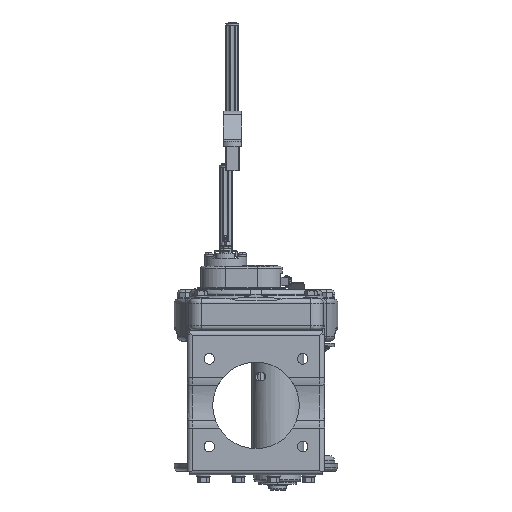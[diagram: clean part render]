
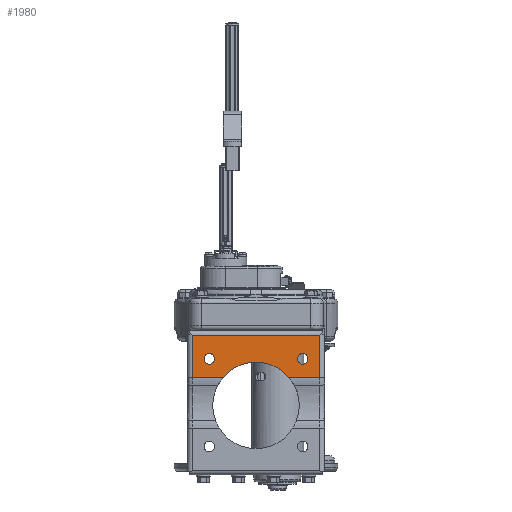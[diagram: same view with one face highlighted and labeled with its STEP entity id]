
A CAD part, front view. The second image highlights one B-rep face of the part: STEP entity #1980.
In plain terms, the highlighted planar face has unit normal (0, -1, 0).
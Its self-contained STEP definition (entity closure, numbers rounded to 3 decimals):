
#1980=ADVANCED_FACE('',(#21552,#21553,#21554),#21551,.F.);
#21551=PLANE('',#45044);
#21552=FACE_OUTER_BOUND('',#45045,.T.);
#21553=FACE_BOUND('',#45046,.T.);
#21554=FACE_BOUND('',#45047,.T.);
#45041=CARTESIAN_POINT('',(-127.722,-108.7,-182.168));
#45042=DIRECTION('',(0.,1.,0.));
#45043=DIRECTION('',(0.,0.,-1.));
#45044=AXIS2_PLACEMENT_3D('',#45041,#45042,#45043);
#45045=EDGE_LOOP('',(#65026,#65027,#65028,#65029,#65030,#65031,#65032));
#45046=EDGE_LOOP('',(#65033,#65034));
#45047=EDGE_LOOP('',(#65035,#65036));
#65026=ORIENTED_EDGE('',*,*,#76666,.T.);
#65027=ORIENTED_EDGE('',*,*,#76667,.T.);
#65028=ORIENTED_EDGE('',*,*,#76668,.T.);
#65029=ORIENTED_EDGE('',*,*,#76669,.T.);
#65030=ORIENTED_EDGE('',*,*,#76670,.T.);
#65031=ORIENTED_EDGE('',*,*,#76671,.F.);
#65032=ORIENTED_EDGE('',*,*,#76672,.F.);
#65033=ORIENTED_EDGE('',*,*,#76673,.T.);
#65034=ORIENTED_EDGE('',*,*,#76674,.T.);
#65035=ORIENTED_EDGE('',*,*,#76675,.T.);
#65036=ORIENTED_EDGE('',*,*,#76676,.T.);
#76666=EDGE_CURVE('',#114693,#114694,#114695,.T.);
#76667=EDGE_CURVE('',#114694,#114701,#114702,.T.);
#76668=EDGE_CURVE('',#114701,#114708,#114709,.T.);
#76669=EDGE_CURVE('',#114708,#114715,#114716,.T.);
#76670=EDGE_CURVE('',#114715,#114722,#114723,.T.);
#76671=EDGE_CURVE('',#114729,#114722,#114730,.T.);
#76672=EDGE_CURVE('',#114693,#114729,#114736,.T.);
#76673=EDGE_CURVE('',#114742,#114743,#114744,.T.);
#76674=EDGE_CURVE('',#114743,#114742,#114750,.T.);
#76675=EDGE_CURVE('',#114756,#114757,#114758,.T.);
#76676=EDGE_CURVE('',#114757,#114756,#114764,.T.);
#114693=VERTEX_POINT('',#153809);
#114694=VERTEX_POINT('',#153810);
#114695=LINE('',#153811,#153812);
#114701=VERTEX_POINT('',#153814);
#114702=CIRCLE('',#153818,74.);
#114708=VERTEX_POINT('',#153819);
#114709=CIRCLE('',#153823,74.);
#114715=VERTEX_POINT('',#153824);
#114716=LINE('',#153825,#153826);
#114722=VERTEX_POINT('',#153828);
#114723=LINE('',#153829,#153830);
#114729=VERTEX_POINT('',#153832);
#114730=LINE('',#153833,#153834);
#114736=LINE('',#153836,#153837);
#114742=VERTEX_POINT('',#153839);
#114743=VERTEX_POINT('',#153840);
#114744=CIRCLE('',#153844,9.);
#114750=CIRCLE('',#153848,9.);
#114756=VERTEX_POINT('',#153849);
#114757=VERTEX_POINT('',#153850);
#114758=CIRCLE('',#153854,9.);
#114764=CIRCLE('',#153858,9.);
#153809=CARTESIAN_POINT('',(-356.722,-108.7,-261.321));
#153810=CARTESIAN_POINT('',(-303.505,-108.7,-261.321));
#153811=CARTESIAN_POINT('',(-356.722,-108.7,-261.321));
#153812=VECTOR('',#153813,53.216);
#153813=DIRECTION('',(1.,0.,0.));
#153814=CARTESIAN_POINT('',(-247.222,-108.7,-235.364));
#153815=CARTESIAN_POINT('',(-247.222,-108.7,-309.364));
#153816=DIRECTION('',(0.,1.,0.));
#153817=DIRECTION('',(-0.761,0.,0.649));
#153818=AXIS2_PLACEMENT_3D('',#153815,#153816,#153817);
#153819=CARTESIAN_POINT('',(-190.938,-108.7,-261.321));
#153820=CARTESIAN_POINT('',(-247.222,-108.7,-309.364));
#153821=DIRECTION('',(0.,1.,0.));
#153822=DIRECTION('',(-0.761,0.,0.649));
#153823=AXIS2_PLACEMENT_3D('',#153820,#153821,#153822);
#153824=CARTESIAN_POINT('',(-137.722,-108.7,-261.321));
#153825=CARTESIAN_POINT('',(-190.938,-108.7,-261.321));
#153826=VECTOR('',#153827,53.216);
#153827=DIRECTION('',(1.,0.,0.));
#153828=CARTESIAN_POINT('',(-137.722,-108.7,-189.364));
#153829=CARTESIAN_POINT('',(-137.722,-108.7,-261.321));
#153830=VECTOR('',#153831,71.957);
#153831=DIRECTION('',(0.,0.,1.));
#153832=CARTESIAN_POINT('',(-356.722,-108.7,-189.364));
#153833=CARTESIAN_POINT('',(-356.722,-108.7,-189.364));
#153834=VECTOR('',#153835,219.);
#153835=DIRECTION('',(1.,0.,0.));
#153836=CARTESIAN_POINT('',(-356.722,-108.7,-261.321));
#153837=VECTOR('',#153838,71.957);
#153838=DIRECTION('',(0.,0.,1.));
#153839=CARTESIAN_POINT('',(-167.222,-108.7,-238.864));
#153840=CARTESIAN_POINT('',(-167.222,-108.7,-220.864));
#153841=CARTESIAN_POINT('',(-167.222,-108.7,-229.864));
#153842=DIRECTION('',(0.,1.,0.));
#153843=DIRECTION('',(0.,0.,-1.));
#153844=AXIS2_PLACEMENT_3D('',#153841,#153842,#153843);
#153845=CARTESIAN_POINT('',(-167.222,-108.7,-229.864));
#153846=DIRECTION('',(0.,1.,0.));
#153847=DIRECTION('',(0.,0.,-1.));
#153848=AXIS2_PLACEMENT_3D('',#153845,#153846,#153847);
#153849=CARTESIAN_POINT('',(-327.222,-108.7,-238.864));
#153850=CARTESIAN_POINT('',(-327.222,-108.7,-220.864));
#153851=CARTESIAN_POINT('',(-327.222,-108.7,-229.864));
#153852=DIRECTION('',(0.,1.,0.));
#153853=DIRECTION('',(0.,0.,-1.));
#153854=AXIS2_PLACEMENT_3D('',#153851,#153852,#153853);
#153855=CARTESIAN_POINT('',(-327.222,-108.7,-229.864));
#153856=DIRECTION('',(0.,1.,0.));
#153857=DIRECTION('',(0.,0.,-1.));
#153858=AXIS2_PLACEMENT_3D('',#153855,#153856,#153857);
